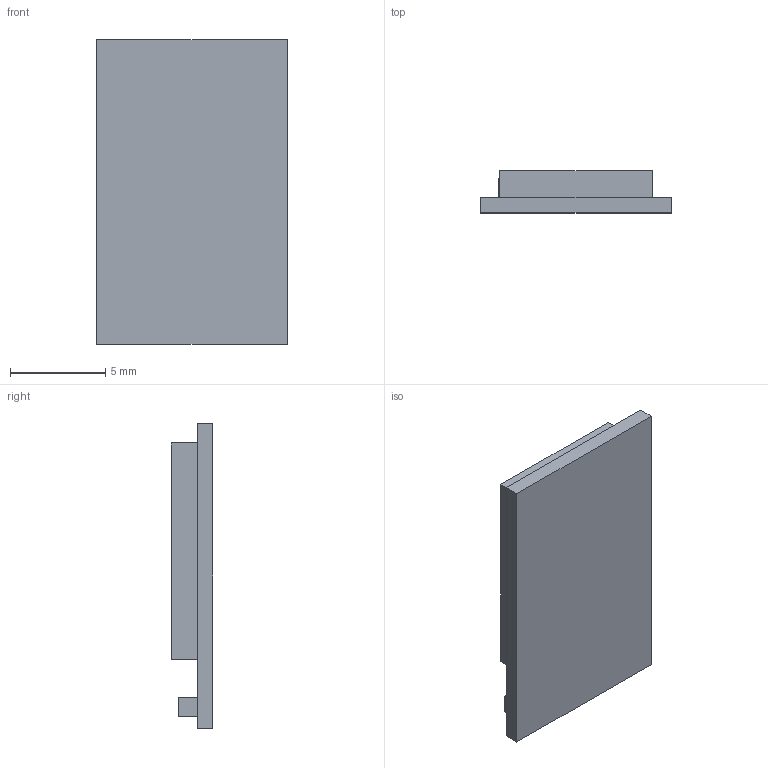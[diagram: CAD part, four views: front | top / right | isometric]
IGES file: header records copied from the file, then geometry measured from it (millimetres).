
Start section:  PTC IGES file: mdbt42q.igs
Global section: file name: mdbt42q.igs; native system: Pro/ENGINEER by Parametric Technology Corporation; preprocessor: 2008170; author: cotron; organization: Unknown; date: 20161213.140642; units: millimetre
Bounding box: 10 x 2.2 x 16 mm (x, y, z)
Surface area: 433.9 mm2 (no closed solid volume)
Topology: 0 solids, 0 shells, 16 faces, 72 edges, 72 vertices
Faces by surface type: bspline 16
